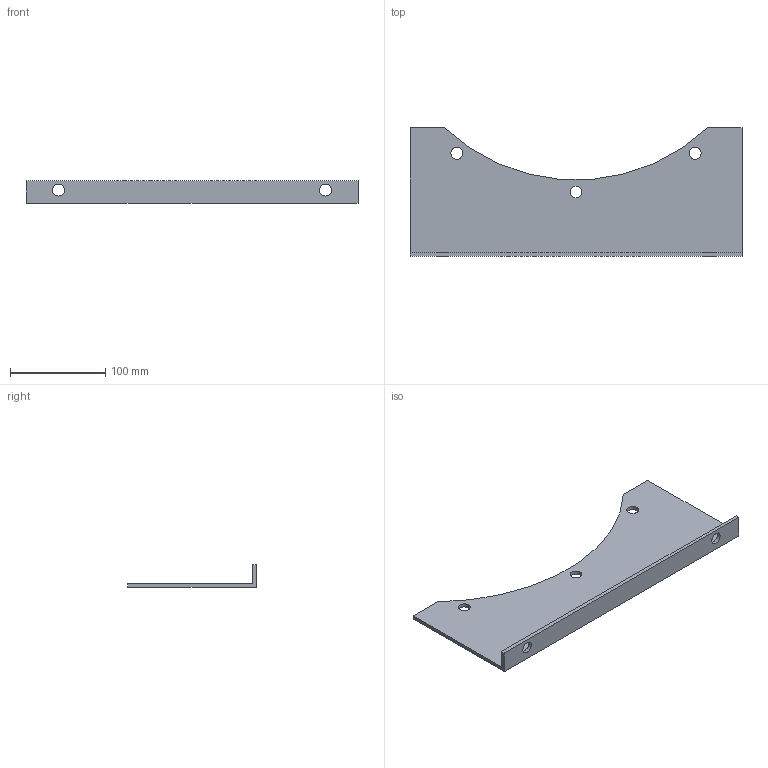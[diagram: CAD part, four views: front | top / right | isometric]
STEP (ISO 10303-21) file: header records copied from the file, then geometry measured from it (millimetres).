
FILE_DESCRIPTION(('STEP AP214'),'1');
FILE_NAME('accessory_5138902900.stp','2017-10-09T07:38:45',('TraceParts'),('TraceParts S.A.'),'Spatial InterOp 3D',' ',' ');
FILE_SCHEMA(('automotive_design'));
Length unit declared in the file: millimetre
Products named in the file (1): accessory_5138902900
Bounding box: 348 x 135 x 24 mm (x, y, z)
Volume: 171638.6 mm3; surface area: 90742.3 mm2
Topology: 1 solids, 1 shells, 20 faces, 54 edges, 36 vertices
Faces by surface type: cylinder 11, plane 9
Entity records: 836 total; most frequent: DIRECTION 118, CARTESIAN_POINT 111, ORIENTED_EDGE 108, EDGE_CURVE 54, AXIS2_PLACEMENT_3D 43, VERTEX_POINT 36, LINE 32, VECTOR 32
